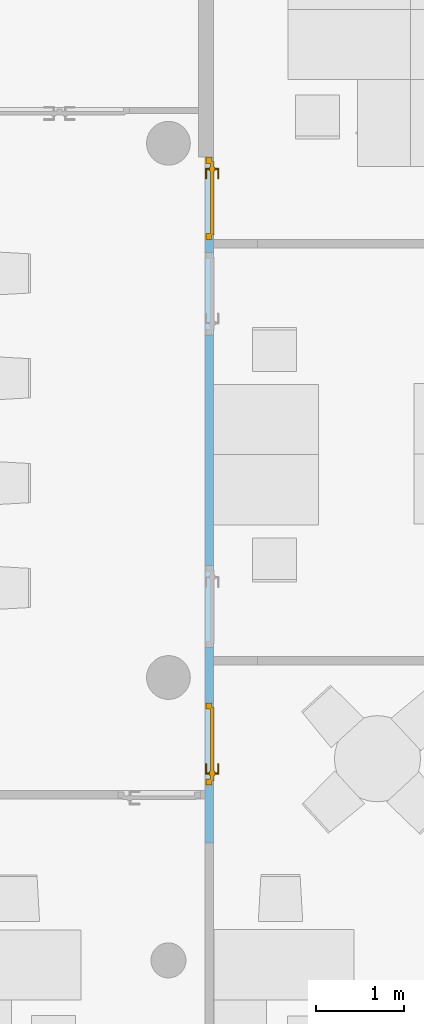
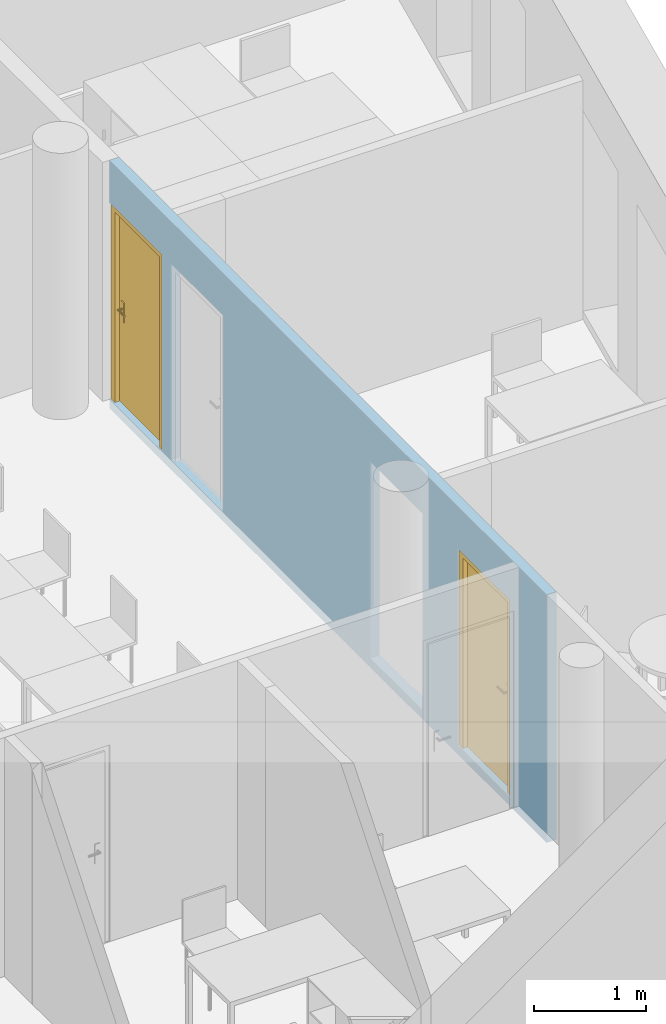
"""IFC4 building model written with IfcOpenShell, lengths in metres."""

from ifc_helpers import new_model, entity, si_unit, converted_unit, derived_unit, frame, frame_2d, origin, origin_with_axes, place, context, subcontext, project, spatial, polyline, rectangle, outline, extrude, faceted_brep, source, transform, mapped, material, layer, layer_set, layer_usage, element, fill, save


model = new_model("IFC4")

# Units and contexts
model_context = context("Model", 3, precision=1e-05, world=origin())
body_context = subcontext(model_context, "Body", "Model", "MODEL_VIEW")
ifc_project = project(units=[si_unit("LENGTHUNIT", "METRE"), si_unit("AREAUNIT", "SQUARE_METRE"), si_unit("VOLUMEUNIT", "CUBIC_METRE"), si_unit("MASSUNIT", "GRAM", prefix="KILO"), converted_unit("PLANEANGLEUNIT", "DEGREE", entity("IfcPlaneAngleMeasure", 0.0174532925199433), si_unit("PLANEANGLEUNIT", "RADIAN"), dimensions=[0, 0, 0, 0, 0, 0, 0]), derived_unit("THERMALTRANSMITTANCEUNIT", [(si_unit("POWERUNIT", "WATT"), 1), (si_unit("THERMODYNAMICTEMPERATUREUNIT", "KELVIN"), -1), (si_unit("LENGTHUNIT", "METRE"), -2)]), derived_unit("VOLUMETRICFLOWRATEUNIT", [(si_unit("LENGTHUNIT", "METRE"), 3), (converted_unit("TIMEUNIT", "hour", entity("IfcTimeMeasure", 3600.0), si_unit("TIMEUNIT", "SECOND"), dimensions=[0, 0, 1, 0, 0, 0, 0]), -1), (si_unit("LENGTHUNIT", "METRE"), -1)])], contexts=[model_context])

# Building, storeys
building_placement = place(None, origin())
building = spatial("IfcBuilding", under=ifc_project, at=building_placement, Name="HABITATGE PLURIFAMILIAR", CompositionType="ELEMENT")
storey_1_placement = place(building_placement, frame((0.0, 0.0, 6.25)))
storey_1 = spatial("IfcBuildingStorey", under=building, at=storey_1_placement, Name="PLANTA PRIMERA", CompositionType="ELEMENT", Elevation=6.25)
storey_2_placement = place(storey_1_placement, frame((0.0, 0.0, 3.35)))
storey_2 = spatial("IfcBuildingStorey", under=storey_1, at=storey_2_placement, Name="NOU", CompositionType="PARTIAL")

# Wall, openings, doors
ifc_material = material()
ifc_layer = layer(ifc_material, 0.1)
ifc_layer_set = layer_set([ifc_layer])
ifc_layer_usage = layer_usage(ifc_layer_set, "AXIS2", "POSITIVE", 0.0)
wall_placement = place(storey_2_placement, frame((421.406984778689, 23.7407426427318, -3.45), z_axis=(0.0, 0.0, 1.0), x_axis=(-2.97388239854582e-14, -1.0, 0.0)))
wall = element("IfcWall", 1, at=wall_placement, inside=storey_2, material=ifc_layer_usage, Name="Mampara P1", context=body_context, shape_type="SweptSolid", body=[
    extrude(rectangle(XDim=7.82918126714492, YDim=0.1, at=frame_2d((3.91459063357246, 0.05), x_axis=(1.0, 0.0))), origin_with_axes(), (0.0, 0.0, 1.0), 2.71),
])
opening_1_placement = place(wall_placement, frame((0.940000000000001, 0.100000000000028, 0.1), z_axis=(2.95585778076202e-14, -1.0, 0.0), x_axis=(0.0, 0.0, 1.0)))
opening_1 = element("IfcOpeningElement", 2, at=opening_1_placement, cuts=wall, Name="Vano de puerta P1", ObjectType="Opening", context=body_context, shape_type="SweptSolid", body=[
    extrude(outline(polyline([(2.15, 0.940000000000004), (2.15, 0.0), (0.0, 0.0), (0.0, 0.940000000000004), (2.15, 0.940000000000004)])), origin_with_axes(), (0.0, 0.0, 1.0), 0.1),
])
opening_2_placement = place(wall_placement, frame((7.17128276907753, 0.0999999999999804, 0.1), z_axis=(-4.54747350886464e-14, -1.0, 0.0), x_axis=(0.0, 0.0, 1.0)))
opening_2 = element("IfcOpeningElement", 3, at=opening_2_placement, cuts=wall, Name="Vano de puerta P1", ObjectType="Opening", context=body_context, shape_type="SweptSolid", body=[
    extrude(outline(polyline([(2.15, 0.94), (2.15, 0.0), (0.0, 0.0), (0.0, 0.94), (2.15, 0.94)])), origin_with_axes(), (0.0, 0.0, 1.0), 0.1),
])
opening_3_placement = place(wall_placement, frame((2.03, 0.099999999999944, 0.1), z_axis=(-4.32009983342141e-14, -1.0, 0.0), x_axis=(0.0, 0.0, 1.0)))
element("IfcOpeningElement", 4, at=opening_3_placement, cuts=wall, Name="Vano de puerta P1", ObjectType="Opening", context=body_context, shape_type="SweptSolid", body=[
    extrude(outline(polyline([(2.15, 0.94), (2.15, 0.0), (0.0, 0.0), (0.0, 0.94), (2.15, 0.94)])), origin_with_axes(), (0.0, 0.0, 1.0), 0.1),
])
opening_4_placement = place(wall_placement, frame((5.60128276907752, 0.099999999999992, 0.1), z_axis=(2.72848410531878e-14, -1.0, 0.0), x_axis=(0.0, 0.0, 1.0)))
element("IfcOpeningElement", 5, at=opening_4_placement, cuts=wall, Name="Vano de puerta P1", ObjectType="Opening", context=body_context, shape_type="SweptSolid", body=[
    extrude(outline(polyline([(2.15, 0.94), (2.15, 0.0), (0.0, 0.0), (0.0, 0.94), (2.15, 0.94)])), origin_with_axes(), (0.0, 0.0, 1.0), 0.1),
])
shared_shape_1 = source(origin_with_axes(), body_context, "Body", "Brep", [
    faceted_brep([(0.0, 0.0699999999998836, 2.15), (0.0, 0.0699999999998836, 0.0), (0.0700000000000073, 0.0699999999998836, 0.0), (0.0700000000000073, 0.0699999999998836, 2.15), (0.0, 0.0, 0.0), (0.0, 0.0, 2.15), (0.0700000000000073, 0.0, 2.15), (0.0700000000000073, 0.0, 0.0)], [[[0, 1, 2, 3]], [[4, 5, 6, 7]], [[1, 0, 5, 4]], [[2, 1, 4, 7]], [[3, 2, 7, 6]], [[0, 3, 6, 5]]], orient=[[False], [False], [False], [False], [False], [False]]),
    faceted_brep([(0.870000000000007, 0.0699999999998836, 2.15), (0.870000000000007, 0.0699999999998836, 0.0), (0.940000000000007, 0.0699999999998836, 0.0), (0.940000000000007, 0.0699999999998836, 2.15), (0.870000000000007, 0.0, 0.0), (0.870000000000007, 0.0, 2.15), (0.940000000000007, 0.0, 2.15), (0.940000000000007, 0.0, 0.0)], [[[0, 1, 2, 3]], [[4, 5, 6, 7]], [[1, 0, 5, 4]], [[2, 1, 4, 7]], [[3, 2, 7, 6]], [[0, 3, 6, 5]]], orient=[[False], [False], [False], [False], [False], [False]]),
    faceted_brep([(0.0700000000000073, 0.0699999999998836, 2.15), (0.0700000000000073, 0.0699999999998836, 2.08), (0.870000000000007, 0.0699999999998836, 2.08), (0.870000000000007, 0.0699999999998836, 2.15), (0.0700000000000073, 0.0, 2.08), (0.0700000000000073, 0.0, 2.15), (0.870000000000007, 0.0, 2.15), (0.870000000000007, 0.0, 2.08)], [[[0, 1, 2, 3]], [[4, 5, 6, 7]], [[1, 0, 5, 4]], [[2, 1, 4, 7]], [[3, 2, 7, 6]], [[0, 3, 6, 5]]], orient=[[False], [False], [False], [False], [False], [False]]),
    faceted_brep([(0.0500000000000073, 0.0899999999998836, 2.1), (0.0500000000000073, 0.0899999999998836, 0.0), (0.890000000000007, 0.0899999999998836, 0.0), (0.890000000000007, 0.0899999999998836, 2.1), (0.0500000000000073, 0.0499999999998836, 0.0), (0.0500000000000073, 0.0499999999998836, 2.1), (0.890000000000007, 0.0499999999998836, 2.1), (0.890000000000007, 0.0499999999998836, 0.0)], [[[0, 1, 2, 3]], [[4, 5, 6, 7]], [[1, 0, 5, 4]], [[2, 1, 4, 7]], [[3, 2, 7, 6]], [[0, 3, 6, 5]]], orient=[[False], [False], [False], [False], [False], [False]]),
    faceted_brep([(0.110000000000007, 0.0499999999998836, 1.125), (0.110000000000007, 0.0499999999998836, 0.91), (0.160000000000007, 0.0499999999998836, 0.91), (0.160000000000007, 0.0499999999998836, 1.125), (0.110000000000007, 0.0399999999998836, 0.91), (0.110000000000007, 0.0399999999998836, 1.125), (0.160000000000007, 0.0399999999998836, 1.125), (0.160000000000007, 0.0399999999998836, 0.91)], [[[0, 1, 2, 3]], [[4, 5, 6, 7]], [[1, 0, 5, 4]], [[2, 1, 4, 7]], [[3, 2, 7, 6]], [[0, 3, 6, 5]]], orient=[[False], [False], [False], [False], [False], [False]]),
    faceted_brep([(0.135000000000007, 0.0399999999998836, 1.06), (0.130000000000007, 0.0399999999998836, 1.05866025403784), (0.126339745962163, 0.0399999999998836, 1.055), (0.125000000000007, 0.0399999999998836, 1.05), (0.126339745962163, 0.0399999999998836, 1.045), (0.130000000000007, 0.0399999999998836, 1.04133974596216), (0.135000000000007, 0.0399999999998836, 1.04), (0.140000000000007, 0.0399999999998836, 1.04133974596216), (0.143660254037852, 0.0399999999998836, 1.045), (0.145000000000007, 0.0399999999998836, 1.05), (0.143660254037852, 0.0399999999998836, 1.055), (0.140000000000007, 0.0399999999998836, 1.05866025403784), (0.135000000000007, 0.0, 1.06), (0.130000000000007, -0.00500000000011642, 1.05866025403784), (0.126339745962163, -0.00866025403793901, 1.055), (0.125000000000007, -0.0100000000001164, 1.05), (0.126339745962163, -0.00866025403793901, 1.045), (0.130000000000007, -0.00500000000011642, 1.04133974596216), (0.135000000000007, 0.0, 1.04), (0.140000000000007, 0.00499999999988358, 1.04133974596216), (0.143660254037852, 0.00866025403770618, 1.045), (0.145000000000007, 0.00999999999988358, 1.05), (0.143660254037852, 0.00866025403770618, 1.055), (0.140000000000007, 0.00499999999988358, 1.05866025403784), (0.250000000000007, 0.0, 1.06), (0.250000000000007, 0.00499999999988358, 1.05866025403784), (0.250000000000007, 0.00866025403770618, 1.055), (0.250000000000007, 0.00999999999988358, 1.05), (0.250000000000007, 0.00866025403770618, 1.045), (0.250000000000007, 0.00499999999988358, 1.04133974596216), (0.250000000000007, 0.0, 1.04), (0.250000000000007, -0.00500000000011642, 1.04133974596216), (0.250000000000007, -0.00866025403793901, 1.045), (0.250000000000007, -0.0100000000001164, 1.05), (0.250000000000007, -0.00866025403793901, 1.055), (0.250000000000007, -0.00500000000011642, 1.05866025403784)], [[[0, 1, 2, 3, 4, 5, 6, 7, 8, 9, 10, 11]], [[0, 12, 13, 1]], [[1, 13, 14, 2]], [[2, 14, 15, 3]], [[3, 15, 16, 4]], [[4, 16, 17, 5]], [[5, 17, 18, 6]], [[6, 18, 19, 7]], [[7, 19, 20, 8]], [[8, 20, 21, 9]], [[9, 21, 22, 10]], [[10, 22, 23, 11]], [[11, 23, 12, 0]], [[24, 25, 26, 27, 28, 29, 30, 31, 32, 33, 34, 35]], [[12, 24, 35, 13]], [[13, 35, 34, 14]], [[14, 34, 33, 15]], [[15, 33, 32, 16]], [[16, 32, 31, 17]], [[17, 31, 30, 18]], [[18, 30, 29, 19]], [[19, 29, 28, 20]], [[20, 28, 27, 21]], [[21, 27, 26, 22]], [[22, 26, 25, 23]], [[23, 25, 24, 12]]], orient=[[False], [False], [False], [False], [False], [False], [False], [False], [False], [False], [False], [False], [False], [False], [False], [False], [False], [False], [False], [False], [False], [False], [False], [False], [False], [False]]),
    faceted_brep([(0.110000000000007, 0.0899999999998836, 1.125), (0.160000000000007, 0.0899999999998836, 1.125), (0.160000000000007, 0.0899999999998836, 0.91), (0.110000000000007, 0.0899999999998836, 0.91), (0.110000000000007, 0.0999999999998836, 0.91), (0.160000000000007, 0.0999999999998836, 0.91), (0.160000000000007, 0.0999999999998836, 1.125), (0.110000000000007, 0.0999999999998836, 1.125)], [[[0, 1, 2, 3]], [[4, 5, 6, 7]], [[3, 4, 7, 0]], [[2, 5, 4, 3]], [[1, 6, 5, 2]], [[0, 7, 6, 1]]], orient=[[False], [False], [False], [False], [False], [False]]),
    faceted_brep([(0.135000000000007, 0.0999999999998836, 1.06), (0.140000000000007, 0.0999999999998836, 1.05866025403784), (0.143660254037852, 0.0999999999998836, 1.055), (0.145000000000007, 0.0999999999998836, 1.05), (0.143660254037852, 0.0999999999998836, 1.045), (0.140000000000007, 0.0999999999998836, 1.04133974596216), (0.135000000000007, 0.0999999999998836, 1.04), (0.130000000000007, 0.0999999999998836, 1.04133974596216), (0.126339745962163, 0.0999999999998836, 1.045), (0.125000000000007, 0.0999999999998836, 1.05), (0.126339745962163, 0.0999999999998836, 1.055), (0.130000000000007, 0.0999999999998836, 1.05866025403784), (0.130000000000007, 0.144999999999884, 1.05866025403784), (0.135000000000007, 0.139999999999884, 1.06), (0.126339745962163, 0.148660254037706, 1.055), (0.125000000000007, 0.149999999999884, 1.05), (0.126339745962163, 0.148660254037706, 1.045), (0.130000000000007, 0.144999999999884, 1.04133974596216), (0.135000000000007, 0.139999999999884, 1.04), (0.140000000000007, 0.134999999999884, 1.04133974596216), (0.143660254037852, 0.131339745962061, 1.045), (0.145000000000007, 0.129999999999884, 1.05), (0.143660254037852, 0.131339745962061, 1.055), (0.140000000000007, 0.134999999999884, 1.05866025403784), (0.250000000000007, 0.139999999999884, 1.06), (0.250000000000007, 0.144999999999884, 1.05866025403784), (0.250000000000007, 0.148660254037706, 1.055), (0.250000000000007, 0.149999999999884, 1.05), (0.250000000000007, 0.148660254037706, 1.045), (0.250000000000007, 0.144999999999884, 1.04133974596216), (0.250000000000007, 0.139999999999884, 1.04), (0.250000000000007, 0.134999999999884, 1.04133974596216), (0.250000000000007, 0.131339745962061, 1.045), (0.250000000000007, 0.129999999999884, 1.05), (0.250000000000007, 0.131339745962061, 1.055), (0.250000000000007, 0.134999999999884, 1.05866025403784)], [[[0, 1, 2, 3, 4, 5, 6, 7, 8, 9, 10, 11]], [[0, 11, 12, 13]], [[11, 10, 14, 12]], [[10, 9, 15, 14]], [[9, 8, 16, 15]], [[8, 7, 17, 16]], [[7, 6, 18, 17]], [[6, 5, 19, 18]], [[5, 4, 20, 19]], [[4, 3, 21, 20]], [[3, 2, 22, 21]], [[2, 1, 23, 22]], [[1, 0, 13, 23]], [[24, 25, 26, 27, 28, 29, 30, 31, 32, 33, 34, 35]], [[13, 12, 25, 24]], [[12, 14, 26, 25]], [[14, 15, 27, 26]], [[15, 16, 28, 27]], [[16, 17, 29, 28]], [[17, 18, 30, 29]], [[18, 19, 31, 30]], [[19, 20, 32, 31]], [[20, 21, 33, 32]], [[21, 22, 34, 33]], [[22, 23, 35, 34]], [[23, 13, 24, 35]]], orient=[[False], [False], [False], [False], [False], [False], [False], [False], [False], [False], [False], [False], [False], [False], [False], [False], [False], [False], [False], [False], [False], [False], [False], [False], [False], [False]]),
])
door_1_placement = place(opening_1_placement, frame((0.0, 0.940000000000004, 0.085), z_axis=(1.0, 0.0, 0.0), x_axis=(0.0, -1.0, -1.80246177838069e-16)))
door_1 = element("IfcDoor", 6, at=door_1_placement, inside=storey_2, Name="Porta P1", OperationType="USERDEFINED", OverallHeight=2.15, OverallWidth=0.94, PredefinedType="DOOR", context=body_context, shape_type="MappedRepresentation", body=[
    mapped(shared_shape_1, transform((0.0, 0.0, 0.0), x_axis=(1.0, 0.0, 0.0), y_axis=(0.0, 1.0, 0.0), z_axis=(0.0, 0.0, 1.0), scale=1.0)),
])
fill(opening_1, door_1)
shared_shape_2 = source(origin_with_axes(), body_context, "Body", "Brep", [
    faceted_brep([(0.940000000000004, 0.0699999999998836, 2.15), (0.870000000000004, 0.0699999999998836, 2.15), (0.870000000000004, 0.0699999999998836, 0.0), (0.940000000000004, 0.0699999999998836, 0.0), (0.940000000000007, 0.0, 0.0), (0.870000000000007, 0.0, 0.0), (0.870000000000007, 0.0, 2.15), (0.940000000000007, 0.0, 2.15)], [[[0, 1, 2, 3]], [[4, 5, 6, 7]], [[3, 4, 7, 0]], [[2, 5, 4, 3]], [[1, 6, 5, 2]], [[0, 7, 6, 1]]], orient=[[False], [False], [False], [False], [False], [False]]),
    faceted_brep([(0.0700000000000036, 0.0699999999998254, 2.15), (0.0, 0.0699999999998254, 2.15), (0.0, 0.0699999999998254, 0.0), (0.0700000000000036, 0.0699999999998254, 0.0), (0.0700000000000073, 0.0, 0.0), (0.0, 0.0, 0.0), (0.0, 0.0, 2.15), (0.0700000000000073, 0.0, 2.15)], [[[0, 1, 2, 3]], [[4, 5, 6, 7]], [[3, 4, 7, 0]], [[2, 5, 4, 3]], [[1, 6, 5, 2]], [[0, 7, 6, 1]]], orient=[[False], [False], [False], [False], [False], [False]]),
    faceted_brep([(0.870000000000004, 0.0699999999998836, 2.15), (0.0700000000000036, 0.0699999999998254, 2.15), (0.0700000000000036, 0.0699999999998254, 2.08), (0.870000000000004, 0.0699999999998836, 2.08), (0.870000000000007, 0.0, 2.08), (0.0700000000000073, 0.0, 2.08), (0.0700000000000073, 0.0, 2.15), (0.870000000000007, 0.0, 2.15)], [[[0, 1, 2, 3]], [[4, 5, 6, 7]], [[3, 4, 7, 0]], [[2, 5, 4, 3]], [[1, 6, 5, 2]], [[0, 7, 6, 1]]], orient=[[False], [False], [False], [False], [False], [False]]),
    faceted_brep([(0.89, 0.0899999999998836, 2.1), (0.05, 0.0899999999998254, 2.1), (0.05, 0.0899999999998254, 0.0), (0.89, 0.0899999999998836, 0.0), (0.890000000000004, 0.0499999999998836, 0.0), (0.0500000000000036, 0.0499999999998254, 0.0), (0.0500000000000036, 0.0499999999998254, 2.1), (0.890000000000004, 0.0499999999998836, 2.1)], [[[0, 1, 2, 3]], [[4, 5, 6, 7]], [[3, 4, 7, 0]], [[2, 5, 4, 3]], [[1, 6, 5, 2]], [[0, 7, 6, 1]]], orient=[[False], [False], [False], [False], [False], [False]]),
    faceted_brep([(0.830000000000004, 0.0499999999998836, 1.125), (0.780000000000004, 0.0499999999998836, 1.125), (0.780000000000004, 0.0499999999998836, 0.91), (0.830000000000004, 0.0499999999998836, 0.91), (0.830000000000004, 0.0399999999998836, 0.91), (0.780000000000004, 0.0399999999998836, 0.91), (0.780000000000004, 0.0399999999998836, 1.125), (0.830000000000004, 0.0399999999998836, 1.125)], [[[0, 1, 2, 3]], [[4, 5, 6, 7]], [[3, 4, 7, 0]], [[2, 5, 4, 3]], [[1, 6, 5, 2]], [[0, 7, 6, 1]]], orient=[[False], [False], [False], [False], [False], [False]]),
    faceted_brep([(0.805000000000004, 0.0399999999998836, 1.06), (0.800000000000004, 0.0399999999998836, 1.05866025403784), (0.796339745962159, 0.0399999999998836, 1.055), (0.795000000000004, 0.0399999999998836, 1.05), (0.796339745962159, 0.0399999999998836, 1.045), (0.800000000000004, 0.0399999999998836, 1.04133974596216), (0.805000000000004, 0.0399999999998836, 1.04), (0.810000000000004, 0.0399999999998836, 1.04133974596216), (0.813660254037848, 0.0399999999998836, 1.045), (0.815000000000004, 0.0399999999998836, 1.05), (0.813660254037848, 0.0399999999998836, 1.055), (0.810000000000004, 0.0399999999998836, 1.05866025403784), (0.810000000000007, -0.00500000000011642, 1.05866025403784), (0.805000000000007, 0.0, 1.06), (0.813660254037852, -0.00866025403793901, 1.055), (0.815000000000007, -0.0100000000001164, 1.05), (0.813660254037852, -0.00866025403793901, 1.045), (0.810000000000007, -0.00500000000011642, 1.04133974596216), (0.805000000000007, 0.0, 1.04), (0.800000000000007, 0.00499999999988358, 1.04133974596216), (0.796339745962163, 0.00866025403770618, 1.045), (0.795000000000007, 0.00999999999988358, 1.05), (0.796339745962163, 0.00866025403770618, 1.055), (0.800000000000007, 0.00499999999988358, 1.05866025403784), (0.690000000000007, 0.0, 1.06), (0.690000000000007, -0.00500000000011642, 1.05866025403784), (0.690000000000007, -0.00866025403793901, 1.055), (0.690000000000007, -0.0100000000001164, 1.05), (0.690000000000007, -0.00866025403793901, 1.045), (0.690000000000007, -0.00500000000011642, 1.04133974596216), (0.690000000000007, 0.0, 1.04), (0.690000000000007, 0.00499999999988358, 1.04133974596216), (0.690000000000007, 0.00866025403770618, 1.045), (0.690000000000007, 0.00999999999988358, 1.05), (0.690000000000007, 0.00866025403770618, 1.055), (0.690000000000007, 0.00499999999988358, 1.05866025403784)], [[[0, 1, 2, 3, 4, 5, 6, 7, 8, 9, 10, 11]], [[0, 11, 12, 13]], [[11, 10, 14, 12]], [[10, 9, 15, 14]], [[9, 8, 16, 15]], [[8, 7, 17, 16]], [[7, 6, 18, 17]], [[6, 5, 19, 18]], [[5, 4, 20, 19]], [[4, 3, 21, 20]], [[3, 2, 22, 21]], [[2, 1, 23, 22]], [[1, 0, 13, 23]], [[24, 25, 26, 27, 28, 29, 30, 31, 32, 33, 34, 35]], [[13, 12, 25, 24]], [[12, 14, 26, 25]], [[14, 15, 27, 26]], [[15, 16, 28, 27]], [[16, 17, 29, 28]], [[17, 18, 30, 29]], [[18, 19, 31, 30]], [[19, 20, 32, 31]], [[20, 21, 33, 32]], [[21, 22, 34, 33]], [[22, 23, 35, 34]], [[23, 13, 24, 35]]], orient=[[False], [False], [False], [False], [False], [False], [False], [False], [False], [False], [False], [False], [False], [False], [False], [False], [False], [False], [False], [False], [False], [False], [False], [False], [False], [False]]),
    faceted_brep([(0.83, 0.0899999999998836, 1.125), (0.83, 0.0899999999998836, 0.91), (0.78, 0.0899999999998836, 0.91), (0.78, 0.0899999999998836, 1.125), (0.83, 0.0999999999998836, 0.91), (0.83, 0.0999999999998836, 1.125), (0.78, 0.0999999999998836, 1.125), (0.78, 0.0999999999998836, 0.91)], [[[0, 1, 2, 3]], [[4, 5, 6, 7]], [[1, 0, 5, 4]], [[2, 1, 4, 7]], [[3, 2, 7, 6]], [[0, 3, 6, 5]]], orient=[[False], [False], [False], [False], [False], [False]]),
    faceted_brep([(0.805, 0.0999999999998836, 1.06), (0.81, 0.0999999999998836, 1.05866025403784), (0.813660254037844, 0.0999999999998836, 1.055), (0.815, 0.0999999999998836, 1.05), (0.813660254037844, 0.0999999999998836, 1.045), (0.81, 0.0999999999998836, 1.04133974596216), (0.805, 0.0999999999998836, 1.04), (0.8, 0.0999999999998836, 1.04133974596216), (0.796339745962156, 0.0999999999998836, 1.045), (0.795, 0.0999999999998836, 1.05), (0.796339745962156, 0.0999999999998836, 1.055), (0.8, 0.0999999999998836, 1.05866025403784), (0.804999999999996, 0.139999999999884, 1.06), (0.809999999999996, 0.144999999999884, 1.05866025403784), (0.813660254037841, 0.148660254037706, 1.055), (0.814999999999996, 0.149999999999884, 1.05), (0.813660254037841, 0.148660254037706, 1.045), (0.809999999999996, 0.144999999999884, 1.04133974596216), (0.804999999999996, 0.139999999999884, 1.04), (0.8, 0.134999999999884, 1.04133974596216), (0.796339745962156, 0.131339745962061, 1.045), (0.795, 0.129999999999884, 1.05), (0.796339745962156, 0.131339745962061, 1.055), (0.8, 0.134999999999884, 1.05866025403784), (0.689999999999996, 0.139999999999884, 1.06), (0.69, 0.134999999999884, 1.05866025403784), (0.69, 0.131339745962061, 1.055), (0.69, 0.129999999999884, 1.05), (0.69, 0.131339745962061, 1.045), (0.69, 0.134999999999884, 1.04133974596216), (0.689999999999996, 0.139999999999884, 1.04), (0.689999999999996, 0.144999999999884, 1.04133974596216), (0.689999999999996, 0.148660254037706, 1.045), (0.689999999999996, 0.149999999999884, 1.05), (0.689999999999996, 0.148660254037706, 1.055), (0.689999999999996, 0.144999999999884, 1.05866025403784)], [[[0, 1, 2, 3, 4, 5, 6, 7, 8, 9, 10, 11]], [[0, 12, 13, 1]], [[1, 13, 14, 2]], [[2, 14, 15, 3]], [[3, 15, 16, 4]], [[4, 16, 17, 5]], [[5, 17, 18, 6]], [[6, 18, 19, 7]], [[7, 19, 20, 8]], [[8, 20, 21, 9]], [[9, 21, 22, 10]], [[10, 22, 23, 11]], [[11, 23, 12, 0]], [[24, 25, 26, 27, 28, 29, 30, 31, 32, 33, 34, 35]], [[12, 24, 35, 13]], [[13, 35, 34, 14]], [[14, 34, 33, 15]], [[15, 33, 32, 16]], [[16, 32, 31, 17]], [[17, 31, 30, 18]], [[18, 30, 29, 19]], [[19, 29, 28, 20]], [[20, 28, 27, 21]], [[21, 27, 26, 22]], [[22, 26, 25, 23]], [[23, 25, 24, 12]]], orient=[[False], [False], [False], [False], [False], [False], [False], [False], [False], [False], [False], [False], [False], [False], [False], [False], [False], [False], [False], [False], [False], [False], [False], [False], [False], [False]]),
])
door_2_placement = place(opening_2_placement, frame((0.0, 0.939999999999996, 0.0850000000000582), z_axis=(1.0, 0.0, 0.0), x_axis=(0.0, -1.0, -1.32905155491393e-14)))
door_2 = element("IfcDoor", 7, at=door_2_placement, inside=storey_2, Name="Porta P1", OperationType="USERDEFINED", OverallHeight=2.15, OverallWidth=0.94, PredefinedType="DOOR", context=body_context, shape_type="MappedRepresentation", body=[
    mapped(shared_shape_2, transform((0.0, 0.0, 0.0), x_axis=(1.0, 0.0, 0.0), y_axis=(0.0, 1.0, 0.0), z_axis=(0.0, 0.0, 1.0), scale=1.0)),
])
fill(opening_2, door_2)

save(model, "model.ifc")
